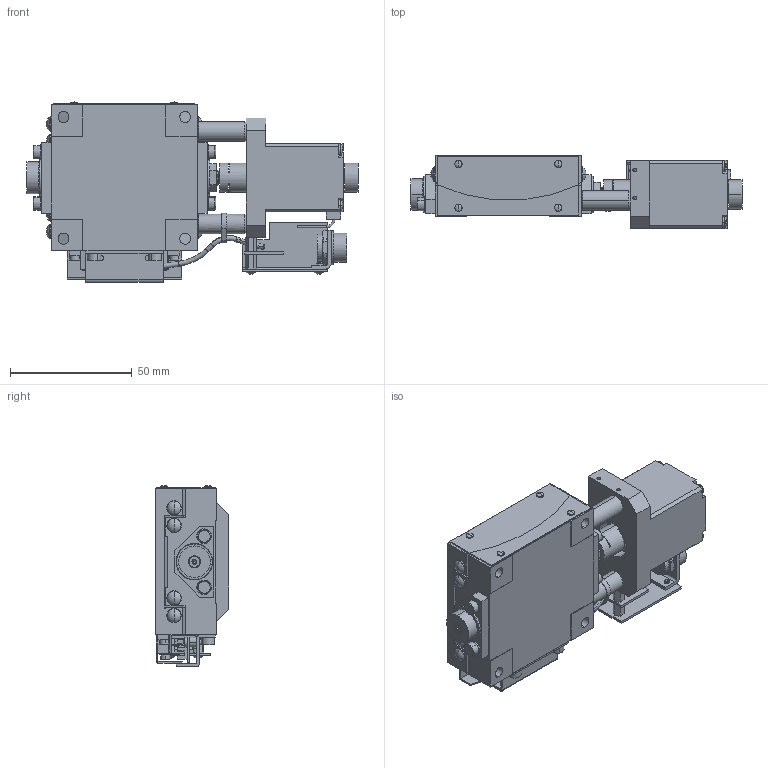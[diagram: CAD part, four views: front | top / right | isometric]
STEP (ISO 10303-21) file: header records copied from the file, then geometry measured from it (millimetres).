
FILE_DESCRIPTION (( 'STEP AP214' ), '1' );
FILE_NAME ('KGB06050M-LT.STEP', '2024-04-16T07:31:02', ( '' ), ( '' ), 'SwSTEP 2.0', 'SolidWorks 2017', '' );
FILE_SCHEMA (( 'AUTOMOTIVE_DESIGN' ));
Length unit declared in the file: millimetre
Products named in the file (5): 60-M-12-L; KGB-TOP-06050-L; KGB-60-T-L; KGB-BASE-06050-L; KGB06050M-LT
Assembly tree (4 placements, depth 2):
  KGB06050M-LT
    KGB-BASE-06050-L
    KGB-TOP-06050-L
    KGB-60-T-L
    60-M-12-L
Bounding box: 136.4 x 30 x 74.3 mm (x, y, z)
Volume: 135066.6 mm3; surface area: 50449.8 mm2
Topology: 4 solids, 35 shells, 1044 faces, 2485 edges, 1598 vertices
Faces by surface type: plane 436, cylinder 398, cone 110, torus 44, sphere 36, bspline 20
Entity records: 31700 total; most frequent: CARTESIAN_POINT 6265, DIRECTION 5582, ORIENTED_EDGE 4914, EDGE_CURVE 2457, AXIS2_PLACEMENT_3D 2171, VERTEX_POINT 1598, LINE 1240, VECTOR 1240
